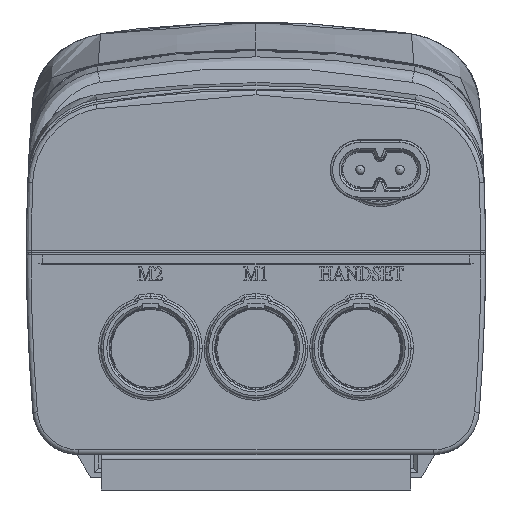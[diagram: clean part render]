
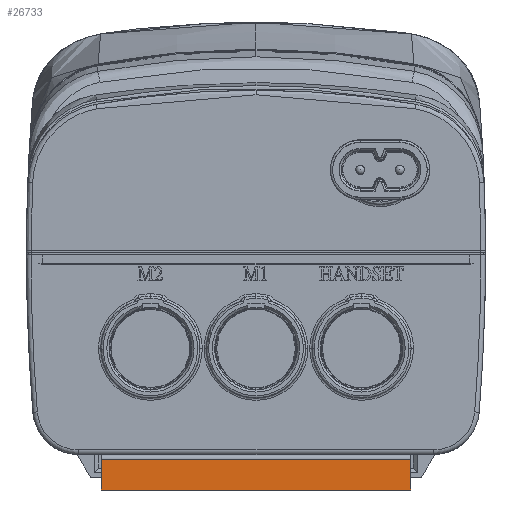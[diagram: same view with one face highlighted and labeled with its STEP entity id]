
A CAD part, front view. The second image highlights one B-rep face of the part: STEP entity #26733.
In plain terms, the highlighted planar face has unit normal (0, -1, 0).
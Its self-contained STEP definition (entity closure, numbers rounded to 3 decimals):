
#2562 = VECTOR ( 'NONE', #104065, 1000. ) ;
#7774 = EDGE_CURVE ( 'NONE', #115688, #71917, #157023, .T. ) ;
#8919 = DIRECTION ( 'NONE',  ( 0., 0., 1. ) ) ;
#9842 = CARTESIAN_POINT ( 'NONE',  ( -9.234, -185.118, -50.791 ) ) ;
#10585 = LINE ( 'NONE', #116954, #2562 ) ;
#14171 = VECTOR ( 'NONE', #23239, 1000. ) ;
#19461 = CARTESIAN_POINT ( 'NONE',  ( 48.266, -185.118, -50.791 ) ) ;
#22414 = EDGE_CURVE ( 'NONE', #115688, #25363, #65134, .T. ) ;
#23239 = DIRECTION ( 'NONE',  ( -1., 0., 0. ) ) ;
#23796 = ORIENTED_EDGE ( 'NONE', *, *, #22414, .T. ) ;
#24893 = VECTOR ( 'NONE', #126378, 1000. ) ;
#25363 = VERTEX_POINT ( 'NONE', #90521 ) ;
#26733 = ADVANCED_FACE ( 'NONE', ( #73414 ), #72667, .F. ) ;
#34793 = CARTESIAN_POINT ( 'NONE',  ( -19.234, -185.118, -118.321 ) ) ;
#36851 = CARTESIAN_POINT ( 'NONE',  ( -9.234, -185.118, -44.061 ) ) ;
#43217 = CARTESIAN_POINT ( 'NONE',  ( 48.266, -185.118, -44.061 ) ) ;
#56690 = AXIS2_PLACEMENT_3D ( 'NONE', #59308, #85497, #8919 ) ;
#59308 = CARTESIAN_POINT ( 'NONE',  ( -9.234, -185.118, -43.061 ) ) ;
#65134 = LINE ( 'NONE', #34793, #103112 ) ;
#71917 = VERTEX_POINT ( 'NONE', #43217 ) ;
#72667 = PLANE ( 'NONE',  #56690 ) ;
#73414 = FACE_OUTER_BOUND ( 'NONE', #82443, .T. ) ;
#74064 = ORIENTED_EDGE ( 'NONE', *, *, #109278, .F. ) ;
#82443 = EDGE_LOOP ( 'NONE', ( #23796, #74064, #96670, #144799 ) ) ;
#85497 = DIRECTION ( 'NONE',  ( 0., 1., 0. ) ) ;
#90180 = VERTEX_POINT ( 'NONE', #19461 ) ;
#90521 = CARTESIAN_POINT ( 'NONE',  ( -19.234, -185.118, -50.791 ) ) ;
#96670 = ORIENTED_EDGE ( 'NONE', *, *, #99294, .T. ) ;
#99294 = EDGE_CURVE ( 'NONE', #90180, #71917, #10585, .T. ) ;
#103112 = VECTOR ( 'NONE', #161761, 1000. ) ;
#104065 = DIRECTION ( 'NONE',  ( 0., 0., 1. ) ) ;
#109278 = EDGE_CURVE ( 'NONE', #90180, #25363, #150302, .T. ) ;
#110439 = CARTESIAN_POINT ( 'NONE',  ( -19.234, -185.118, -44.061 ) ) ;
#115688 = VERTEX_POINT ( 'NONE', #110439 ) ;
#116954 = CARTESIAN_POINT ( 'NONE',  ( 48.266, -185.118, -118.321 ) ) ;
#126378 = DIRECTION ( 'NONE',  ( 1., 0., 0. ) ) ;
#144799 = ORIENTED_EDGE ( 'NONE', *, *, #7774, .F. ) ;
#150302 = LINE ( 'NONE', #9842, #14171 ) ;
#157023 = LINE ( 'NONE', #36851, #24893 ) ;
#161761 = DIRECTION ( 'NONE',  ( 0., 0., -1. ) ) ;
